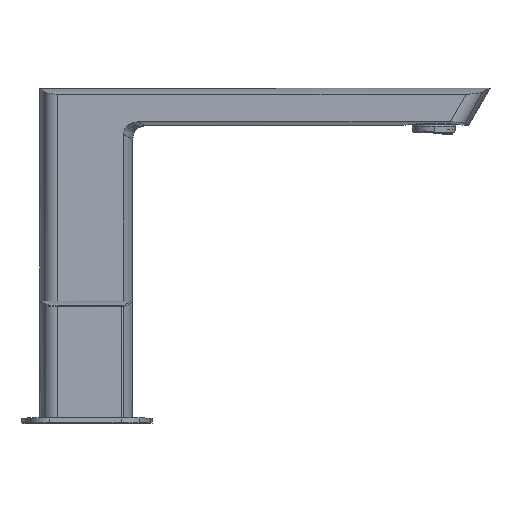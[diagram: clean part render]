
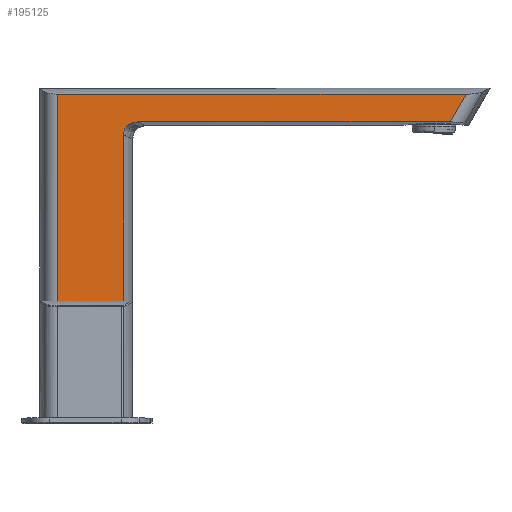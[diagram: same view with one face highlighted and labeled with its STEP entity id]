
A CAD part, top view. The second image highlights one B-rep face of the part: STEP entity #195125.
In plain terms, the highlighted planar face has unit normal (0, 0, 1).
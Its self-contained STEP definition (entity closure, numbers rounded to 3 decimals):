
#509 = CARTESIAN_POINT ( 'NONE',  ( 21.623, 133.001, 16.25 ) ) ;
#1574 = CARTESIAN_POINT ( 'NONE',  ( 17.228, 130.511, 16.25 ) ) ;
#3666 = CARTESIAN_POINT ( 'NONE',  ( 111.641, 133., 16.25 ) ) ;
#4061 = ORIENTED_EDGE ( 'NONE', *, *, #176661, .T. ) ;
#12852 = LINE ( 'NONE', #177243, #65162 ) ;
#15397 = CARTESIAN_POINT ( 'NONE',  ( 18.434, 131.749, 16.25 ) ) ;
#17806 = VECTOR ( 'NONE', #143022, 1000. ) ;
#17980 = EDGE_CURVE ( 'NONE', #120457, #208124, #53040, .T. ) ;
#18123 = LINE ( 'NONE', #182521, #105268 ) ;
#20128 = VECTOR ( 'NONE', #153451, 1000. ) ;
#20201 = DIRECTION ( 'NONE',  ( 0., -1., 0. ) ) ;
#26156 = EDGE_LOOP ( 'NONE', ( #60767, #40593, #27149, #31701, #183985, #38710, #4061 ) ) ;
#26365 = CARTESIAN_POINT ( 'NONE',  ( 16.25, 4.997, 16.25 ) ) ;
#27149 = ORIENTED_EDGE ( 'NONE', *, *, #130482, .F. ) ;
#28144 = VECTOR ( 'NONE', #207913, 1000. ) ;
#29542 = DIRECTION ( 'NONE',  ( 0., 0., 1. ) ) ;
#31701 = ORIENTED_EDGE ( 'NONE', *, *, #128991, .F. ) ;
#32062 = CARTESIAN_POINT ( 'NONE',  ( -12.142, 5., 16.25 ) ) ;
#38710 = ORIENTED_EDGE ( 'NONE', *, *, #68909, .F. ) ;
#40593 = ORIENTED_EDGE ( 'NONE', *, *, #88975, .T. ) ;
#46313 = CARTESIAN_POINT ( 'NONE',  ( 16.457, 128.963, 16.25 ) ) ;
#46604 = CARTESIAN_POINT ( 'NONE',  ( -12.145, 6.497, 16.25 ) ) ;
#53040 = B_SPLINE_CURVE_WITH_KNOTS ( 'NONE', 3,
 ( #115692, #509, #161636, #147688, #62304, #98589, #15397, #65473, #127412, #1574, #192732, #163756, #129522, #114646, #46313, #130598, #66521, #80509 ),
 .UNSPECIFIED., .F., .F.,
 ( 4, 2, 2, 2, 2, 2, 2, 2, 4 ),
 ( 0., 0.002, 0.003, 0.005, 0.006, 0.006, 0.007, 0.008, 0.009 ),
 .UNSPECIFIED. ) ;
#60767 = ORIENTED_EDGE ( 'NONE', *, *, #146913, .T. ) ;
#61091 = VERTEX_POINT ( 'NONE', #82535 ) ;
#62304 = CARTESIAN_POINT ( 'NONE',  ( 19.415, 132.342, 16.25 ) ) ;
#63770 = VECTOR ( 'NONE', #68665, 1000. ) ;
#64212 = VERTEX_POINT ( 'NONE', #126643 ) ;
#65162 = VECTOR ( 'NONE', #144121, 1000. ) ;
#65473 = CARTESIAN_POINT ( 'NONE',  ( 17.842, 131.244, 16.25 ) ) ;
#66521 = CARTESIAN_POINT ( 'NONE',  ( 16.25, 127.821, 16.25 ) ) ;
#68665 = DIRECTION ( 'NONE',  ( -1., 0., 0. ) ) ;
#68909 = EDGE_CURVE ( 'NONE', #61091, #120457, #101733, .T. ) ;
#72529 = VERTEX_POINT ( 'NONE', #32062 ) ;
#74236 = CARTESIAN_POINT ( 'NONE',  ( 16.25, 5., 16.25 ) ) ;
#76588 = CARTESIAN_POINT ( 'NONE',  ( 16.25, 127.431, 16.25 ) ) ;
#77922 = CARTESIAN_POINT ( 'NONE',  ( -12.145, 145., 16.25 ) ) ;
#80509 = CARTESIAN_POINT ( 'NONE',  ( 16.25, 127.431, 16.25 ) ) ;
#82535 = CARTESIAN_POINT ( 'NONE',  ( 157.495, 133., 16.25 ) ) ;
#84168 = LINE ( 'NONE', #26365, #20128 ) ;
#88975 = EDGE_CURVE ( 'NONE', #104839, #72529, #18123, .T. ) ;
#98589 = CARTESIAN_POINT ( 'NONE',  ( 18.749, 131.967, 16.25 ) ) ;
#101733 = LINE ( 'NONE', #3666, #63770 ) ;
#104839 = VERTEX_POINT ( 'NONE', #134215 ) ;
#105268 = VECTOR ( 'NONE', #20201, 1000. ) ;
#109685 = FACE_OUTER_BOUND ( 'NONE', #26156, .T. ) ;
#114646 = CARTESIAN_POINT ( 'NONE',  ( 16.58, 129.327, 16.25 ) ) ;
#115692 = CARTESIAN_POINT ( 'NONE',  ( 22.4, 133.001, 16.25 ) ) ;
#118372 = VERTEX_POINT ( 'NONE', #74236 ) ;
#120457 = VERTEX_POINT ( 'NONE', #159188 ) ;
#126643 = CARTESIAN_POINT ( 'NONE',  ( 164.423, 145., 16.25 ) ) ;
#127412 = CARTESIAN_POINT ( 'NONE',  ( 17.578, 130.966, 16.25 ) ) ;
#128779 = LINE ( 'NONE', #162982, #28144 ) ;
#128991 = EDGE_CURVE ( 'NONE', #208124, #118372, #84168, .T. ) ;
#129522 = CARTESIAN_POINT ( 'NONE',  ( 16.826, 129.852, 16.25 ) ) ;
#130118 = LINE ( 'NONE', #77922, #17806 ) ;
#130482 = EDGE_CURVE ( 'NONE', #118372, #72529, #12852, .T. ) ;
#130598 = CARTESIAN_POINT ( 'NONE',  ( 16.292, 128.211, 16.25 ) ) ;
#134215 = CARTESIAN_POINT ( 'NONE',  ( -12.142, 145., 16.25 ) ) ;
#143022 = DIRECTION ( 'NONE',  ( -1., 0., 0. ) ) ;
#144121 = DIRECTION ( 'NONE',  ( -1., 0., 0. ) ) ;
#146913 = EDGE_CURVE ( 'NONE', #64212, #104839, #130118, .T. ) ;
#147688 = CARTESIAN_POINT ( 'NONE',  ( 19.765, 132.499, 16.25 ) ) ;
#153451 = DIRECTION ( 'NONE',  ( 0., -1., 0. ) ) ;
#159188 = CARTESIAN_POINT ( 'NONE',  ( 22.4, 133.001, 16.25 ) ) ;
#161636 = CARTESIAN_POINT ( 'NONE',  ( 20.866, 132.88, 16.25 ) ) ;
#162982 = CARTESIAN_POINT ( 'NONE',  ( 157.495, 133., 16.25 ) ) ;
#163756 = CARTESIAN_POINT ( 'NONE',  ( 16.919, 130.025, 16.25 ) ) ;
#176074 = AXIS2_PLACEMENT_3D ( 'NONE', #46604, #29542, #176944 ) ;
#176661 = EDGE_CURVE ( 'NONE', #61091, #64212, #128779, .T. ) ;
#176944 = DIRECTION ( 'NONE',  ( 1., 0., 0. ) ) ;
#177243 = CARTESIAN_POINT ( 'NONE',  ( -20.253, 5., 16.25 ) ) ;
#182521 = CARTESIAN_POINT ( 'NONE',  ( -12.142, 6.497, 16.25 ) ) ;
#183985 = ORIENTED_EDGE ( 'NONE', *, *, #17980, .F. ) ;
#192008 = PLANE ( 'NONE',  #176074 ) ;
#192732 = CARTESIAN_POINT ( 'NONE',  ( 17.119, 130.354, 16.25 ) ) ;
#195125 = ADVANCED_FACE ( 'NONE', ( #109685 ), #192008, .T. ) ;
#207913 = DIRECTION ( 'NONE',  ( 0.5, 0.866, 0. ) ) ;
#208124 = VERTEX_POINT ( 'NONE', #76588 ) ;
